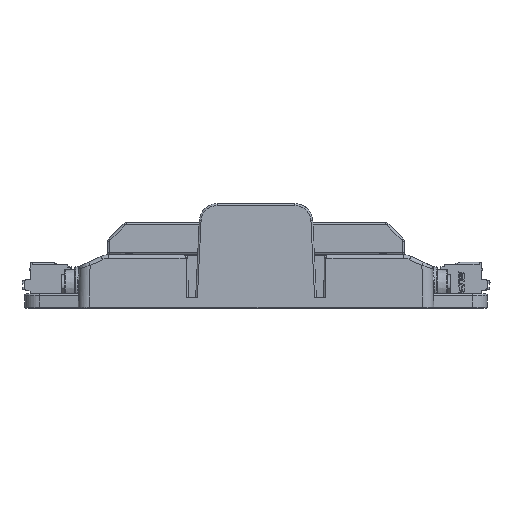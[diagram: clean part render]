
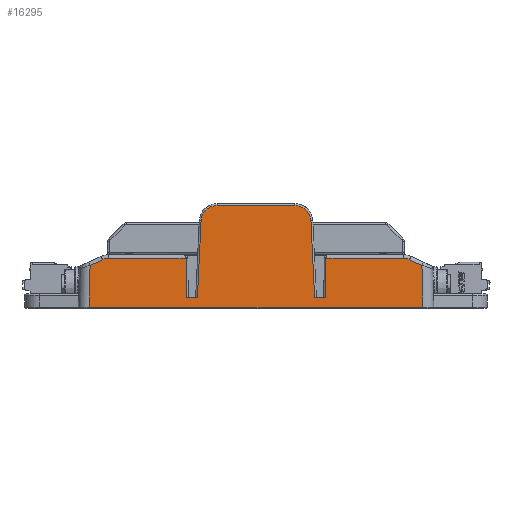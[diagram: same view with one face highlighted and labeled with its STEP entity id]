
A CAD part, front view. The second image highlights one B-rep face of the part: STEP entity #16295.
In plain terms, the highlighted planar face has unit normal (0, -1, 0.024).
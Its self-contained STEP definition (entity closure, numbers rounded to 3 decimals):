
#111=ELLIPSE('',#58036,4.001,4.);
#118=ELLIPSE('',#58104,4.001,4.);
#3049=LINE('',#87482,#8366);
#3096=LINE('',#87679,#8413);
#3116=LINE('',#87785,#8433);
#3157=LINE('',#88488,#8474);
#3158=LINE('',#88535,#8475);
#3159=LINE('',#88760,#8476);
#3175=LINE('',#88816,#8492);
#3176=LINE('',#88818,#8493);
#3177=LINE('',#88820,#8494);
#3178=LINE('',#88829,#8495);
#3179=LINE('',#88838,#8496);
#3180=LINE('',#88840,#8497);
#3181=LINE('',#88842,#8498);
#3182=LINE('',#88843,#8499);
#8366=VECTOR('',#67236,1.);
#8413=VECTOR('',#67323,1.);
#8433=VECTOR('',#67367,1.);
#8474=VECTOR('',#67506,1.);
#8475=VECTOR('',#67509,1.);
#8476=VECTOR('',#67518,1.);
#8492=VECTOR('',#67570,1.);
#8493=VECTOR('',#67571,1.);
#8494=VECTOR('',#67572,1.);
#8495=VECTOR('',#67573,1.);
#8496=VECTOR('',#67574,1.);
#8497=VECTOR('',#67575,1.);
#8498=VECTOR('',#67576,1.);
#8499=VECTOR('',#67577,1.);
#12117=B_SPLINE_CURVE_WITH_KNOTS('',3,(#88822,#88823,#88824,#88825,#88826,
#88827),.UNSPECIFIED.,.F.,.F.,(4,2,4),(0.,0.5,1.),.UNSPECIFIED.);
#12118=B_SPLINE_CURVE_WITH_KNOTS('',3,(#88831,#88832,#88833,#88834,#88835,
#88836),.UNSPECIFIED.,.F.,.F.,(4,2,4),(0.,0.5,1.),.UNSPECIFIED.);
#16295=ADVANCED_FACE('',(#20989),#18606,.T.);
#18606=PLANE('',#58124);
#20989=FACE_OUTER_BOUND('',#24204,.T.);
#24204=EDGE_LOOP('',(#34671,#34672,#34673,#34674,#34675,#34676,#34677,#34678,
#34679,#34680,#34681,#34682,#34683,#34684,#34685,#34686,#34687,#34688));
#34671=ORIENTED_EDGE('',*,*,#51192,.T.);
#34672=ORIENTED_EDGE('',*,*,#51358,.T.);
#34673=ORIENTED_EDGE('',*,*,#51359,.F.);
#34674=ORIENTED_EDGE('',*,*,#51360,.T.);
#34675=ORIENTED_EDGE('',*,*,#51361,.T.);
#34676=ORIENTED_EDGE('',*,*,#51362,.T.);
#34677=ORIENTED_EDGE('',*,*,#51363,.T.);
#34678=ORIENTED_EDGE('',*,*,#51364,.T.);
#34679=ORIENTED_EDGE('',*,*,#51365,.F.);
#34680=ORIENTED_EDGE('',*,*,#51366,.F.);
#34681=ORIENTED_EDGE('',*,*,#51160,.T.);
#34682=ORIENTED_EDGE('',*,*,#51326,.T.);
#34683=ORIENTED_EDGE('',*,*,#51317,.T.);
#34684=ORIENTED_EDGE('',*,*,#51367,.T.);
#34685=ORIENTED_EDGE('',*,*,#51088,.T.);
#34686=ORIENTED_EDGE('',*,*,#51330,.T.);
#34687=ORIENTED_EDGE('',*,*,#51321,.T.);
#34688=ORIENTED_EDGE('',*,*,#51151,.T.);
#44392=VERTEX_POINT('',#87481);
#44393=VERTEX_POINT('',#87483);
#44451=VERTEX_POINT('',#87643);
#44452=VERTEX_POINT('',#87645);
#44457=VERTEX_POINT('',#87678);
#44458=VERTEX_POINT('',#87680);
#44481=VERTEX_POINT('',#87784);
#44573=VERTEX_POINT('',#88447);
#44574=VERTEX_POINT('',#88489);
#44575=VERTEX_POINT('',#88536);
#44600=VERTEX_POINT('',#88817);
#44601=VERTEX_POINT('',#88819);
#44602=VERTEX_POINT('',#88821);
#44603=VERTEX_POINT('',#88828);
#44604=VERTEX_POINT('',#88830);
#44605=VERTEX_POINT('',#88837);
#44606=VERTEX_POINT('',#88839);
#44607=VERTEX_POINT('',#88841);
#51088=EDGE_CURVE('',#44393,#44392,#3049,.T.);
#51151=EDGE_CURVE('',#44452,#44451,#111,.T.);
#51160=EDGE_CURVE('',#44458,#44457,#3096,.T.);
#51192=EDGE_CURVE('',#44451,#44481,#3116,.T.);
#51317=EDGE_CURVE('',#44574,#44573,#3157,.T.);
#51321=EDGE_CURVE('',#44575,#44452,#3158,.T.);
#51326=EDGE_CURVE('',#44457,#44574,#118,.T.);
#51330=EDGE_CURVE('',#44392,#44575,#3159,.T.);
#51358=EDGE_CURVE('',#44481,#44600,#3175,.T.);
#51359=EDGE_CURVE('',#44601,#44600,#3176,.T.);
#51360=EDGE_CURVE('',#44601,#44602,#3177,.T.);
#51361=EDGE_CURVE('',#44602,#44603,#12117,.T.);
#51362=EDGE_CURVE('',#44603,#44604,#3178,.T.);
#51363=EDGE_CURVE('',#44604,#44605,#12118,.T.);
#51364=EDGE_CURVE('',#44605,#44606,#3179,.T.);
#51365=EDGE_CURVE('',#44607,#44606,#3180,.T.);
#51366=EDGE_CURVE('',#44458,#44607,#3181,.T.);
#51367=EDGE_CURVE('',#44573,#44393,#3182,.T.);
#58036=AXIS2_PLACEMENT_3D('',#87644,#67312,#67313);
#58104=AXIS2_PLACEMENT_3D('',#88604,#67514,#67515);
#58124=AXIS2_PLACEMENT_3D('',#88844,#67578,#67579);
#67236=DIRECTION('',(1.,0.,0.));
#67312=DIRECTION('',(0.,-1.,0.024));
#67313=DIRECTION('',(0.,-0.024,-1.));
#67323=DIRECTION('',(-1.,0.,0.));
#67367=DIRECTION('',(-1.,0.,0.));
#67506=DIRECTION('',(-0.906,-0.01,-0.423));
#67509=DIRECTION('',(-0.906,0.01,0.423));
#67514=DIRECTION('',(0.,-1.,0.024));
#67515=DIRECTION('',(0.,-0.024,-1.));
#67518=DIRECTION('',(-0.026,0.024,0.999));
#67570=DIRECTION('',(-0.009,-0.024,-1.));
#67571=DIRECTION('',(1.,0.,0.));
#67572=DIRECTION('',(-0.047,0.024,0.999));
#67573=DIRECTION('',(-1.,0.,0.));
#67574=DIRECTION('',(-0.047,-0.024,-0.999));
#67575=DIRECTION('',(1.,0.,0.));
#67576=DIRECTION('',(0.009,-0.024,-1.));
#67577=DIRECTION('',(-0.026,-0.024,-0.999));
#67578=DIRECTION('',(0.,-1.,0.024));
#67579=DIRECTION('',(0.,-0.024,-1.));
#87481=CARTESIAN_POINT('',(46.81,0.005,0.));
#87482=CARTESIAN_POINT('',(49.,0.005,0.));
#87483=CARTESIAN_POINT('',(-46.81,0.005,0.));
#87643=CARTESIAN_POINT('',(41.278,0.337,13.724));
#87644=CARTESIAN_POINT('',(41.278,0.24,9.724));
#87645=CARTESIAN_POINT('',(42.968,0.328,13.349));
#87678=CARTESIAN_POINT('',(-41.278,0.337,13.724));
#87679=CARTESIAN_POINT('',(-77.,0.337,13.724));
#87680=CARTESIAN_POINT('',(-19.613,0.337,13.72));
#87784=CARTESIAN_POINT('',(19.613,0.337,13.72));
#87785=CARTESIAN_POINT('',(-77.,0.337,13.724));
#88447=CARTESIAN_POINT('',(-46.503,0.288,11.701));
#88488=CARTESIAN_POINT('',(24.663,1.09,44.886));
#88489=CARTESIAN_POINT('',(-42.968,0.328,13.349));
#88535=CARTESIAN_POINT('',(55.825,0.183,7.354));
#88536=CARTESIAN_POINT('',(46.503,0.288,11.701));
#88604=CARTESIAN_POINT('',(-41.278,0.24,9.724));
#88760=CARTESIAN_POINT('',(47.002,-0.172,-7.327));
#88816=CARTESIAN_POINT('',(19.514,0.063,2.388));
#88817=CARTESIAN_POINT('',(19.516,0.071,2.7));
#88818=CARTESIAN_POINT('',(49.,0.071,2.7));
#88819=CARTESIAN_POINT('',(16.42,0.071,2.7));
#88820=CARTESIAN_POINT('',(16.967,-0.207,-8.796));
#88821=CARTESIAN_POINT('',(15.397,0.591,24.226));
#88822=CARTESIAN_POINT('',(15.397,0.591,24.226));
#88823=CARTESIAN_POINT('',(15.343,0.618,25.37));
#88824=CARTESIAN_POINT('',(14.836,0.645,26.479));
#88825=CARTESIAN_POINT('',(13.179,0.683,28.059));
#88826=CARTESIAN_POINT('',(12.049,0.694,28.512));
#88827=CARTESIAN_POINT('',(10.902,0.694,28.512));
#88828=CARTESIAN_POINT('',(10.902,0.694,28.512));
#88829=CARTESIAN_POINT('',(49.,0.694,28.512));
#88830=CARTESIAN_POINT('',(-10.902,0.694,28.512));
#88831=CARTESIAN_POINT('',(-10.902,0.694,28.512));
#88832=CARTESIAN_POINT('',(-12.047,0.694,28.512));
#88833=CARTESIAN_POINT('',(-13.179,0.683,28.058));
#88834=CARTESIAN_POINT('',(-14.836,0.645,26.479));
#88835=CARTESIAN_POINT('',(-15.342,0.618,25.371));
#88836=CARTESIAN_POINT('',(-15.397,0.591,24.226));
#88837=CARTESIAN_POINT('',(-15.397,0.591,24.226));
#88838=CARTESIAN_POINT('',(-16.746,-0.095,-4.15));
#88839=CARTESIAN_POINT('',(-16.42,0.071,2.7));
#88840=CARTESIAN_POINT('',(49.,0.071,2.7));
#88841=CARTESIAN_POINT('',(-19.516,0.071,2.7));
#88842=CARTESIAN_POINT('',(-19.424,-0.185,-7.871));
#88843=CARTESIAN_POINT('',(-46.934,-0.11,-4.764));
#88844=CARTESIAN_POINT('',(49.,-0.17,-7.274));
